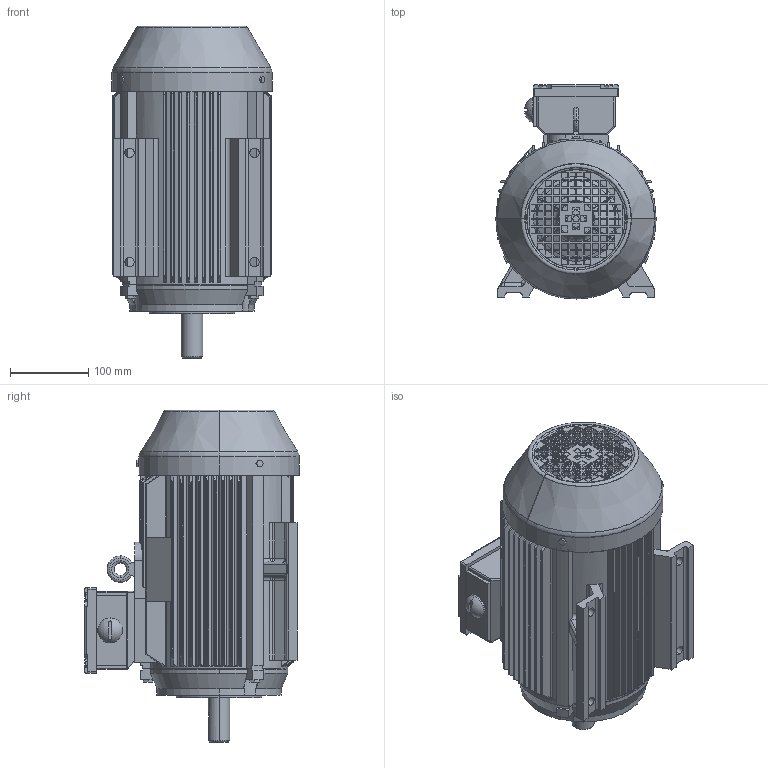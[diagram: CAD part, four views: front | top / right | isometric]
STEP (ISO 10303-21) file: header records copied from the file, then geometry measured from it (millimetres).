
FILE_DESCRIPTION (( 'STEP AP203' ), '1' );
FILE_NAME ('TE3-100L(GX) B34上.STEP', '2019-11-07T00:04:01', ( '微软用户' ), ( '微软中国' ), 'SwSTEP 2.0', 'SolidWorks 2012', '' );
FILE_SCHEMA (( 'CONFIG_CONTROL_DESIGN' ));
Length unit declared in the file: millimetre
Products named in the file (1): TE3-100L(GX) B34奻
Bounding box: 205.4 x 274.7 x 425.49 mm (x, y, z)
Volume: 3758478.2 mm3; surface area: 970262.5 mm2
Topology: 6 solids, 7 shells, 1292 faces, 3508 edges, 2286 vertices
Faces by surface type: plane 787, cylinder 320, cone 107, torus 58, sphere 10, bspline 10
Entity records: 43709 total; most frequent: CARTESIAN_POINT 11224, ORIENTED_EDGE 6984, DIRECTION 6162, EDGE_CURVE 3492, LINE 2346, VECTOR 2346, VERTEX_POINT 2286, AXIS2_PLACEMENT_3D 1908
